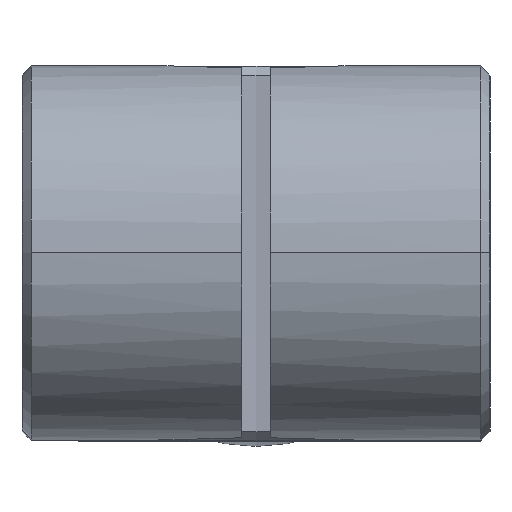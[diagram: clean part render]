
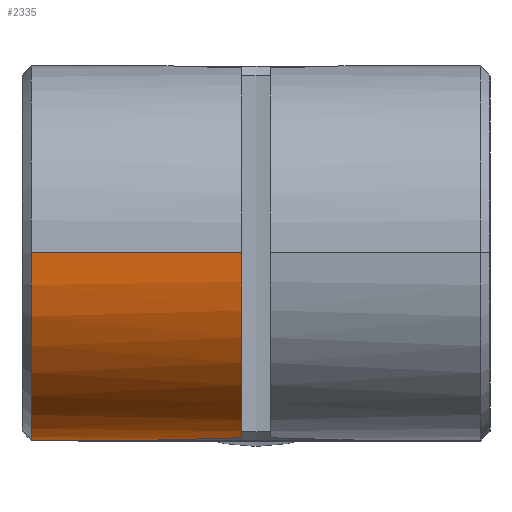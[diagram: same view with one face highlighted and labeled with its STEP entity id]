
A CAD part, top view. The second image highlights one B-rep face of the part: STEP entity #2335.
In plain terms, the highlighted cylindrical face has radius 10 mm (diameter 20 mm), a partial arc.
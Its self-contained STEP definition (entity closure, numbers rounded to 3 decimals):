
#103 = CARTESIAN_POINT ( 'NONE',  ( 0., -10., 0.5 ) ) ;
#131 = CARTESIAN_POINT ( 'NONE',  ( -1.513, -9.885, 11.75 ) ) ;
#145 = VECTOR ( 'NONE', #1704, 1000. ) ;
#150 = VERTEX_POINT ( 'NONE', #131 ) ;
#175 = CARTESIAN_POINT ( 'NONE',  ( 0., 0., 0.5 ) ) ;
#227 = CARTESIAN_POINT ( 'NONE',  ( 0., 0., 11.75 ) ) ;
#239 = EDGE_CURVE ( 'NONE', #1617, #460, #1925, .T. ) ;
#280 = CARTESIAN_POINT ( 'NONE',  ( -0.674, -9.978, 8.417 ) ) ;
#460 = VERTEX_POINT ( 'NONE', #103 ) ;
#483 = DIRECTION ( 'NONE',  ( 0., 0., -1. ) ) ;
#502 = FACE_OUTER_BOUND ( 'NONE', #1262, .T. ) ;
#596 = LINE ( 'NONE', #3121, #145 ) ;
#628 = CARTESIAN_POINT ( 'NONE',  ( -10., 0., 0.5 ) ) ;
#707 = DIRECTION ( 'NONE',  ( 1., 0., 0. ) ) ;
#752 = VECTOR ( 'NONE', #2959, 1000. ) ;
#780 = CARTESIAN_POINT ( 'NONE',  ( -0.973, -9.953, 9.169 ) ) ;
#793 = VERTEX_POINT ( 'NONE', #3399 ) ;
#833 = CARTESIAN_POINT ( 'NONE',  ( -0.109, -10., 7.326 ) ) ;
#840 = EDGE_CURVE ( 'NONE', #793, #848, #596, .T. ) ;
#848 = VERTEX_POINT ( 'NONE', #628 ) ;
#994 = CIRCLE ( 'NONE', #2441, 10. ) ;
#1070 = DIRECTION ( 'NONE',  ( 0., 0., -1. ) ) ;
#1122 = CARTESIAN_POINT ( 'NONE',  ( -1.452, -9.894, 10.941 ) ) ;
#1195 = ORIENTED_EDGE ( 'NONE', *, *, #840, .T. ) ;
#1232 = ORIENTED_EDGE ( 'NONE', *, *, #2256, .T. ) ;
#1262 = EDGE_LOOP ( 'NONE', ( #2157, #1195, #2831, #3537, #1232 ) ) ;
#1288 = CARTESIAN_POINT ( 'NONE',  ( 0., -10., 25. ) ) ;
#1335 = CARTESIAN_POINT ( 'NONE',  ( -0.408, -9.992, 7.864 ) ) ;
#1372 = CARTESIAN_POINT ( 'NONE',  ( -0.755, -9.972, 8.603 ) ) ;
#1382 = CARTESIAN_POINT ( 'NONE',  ( 0., -10., 7.152 ) ) ;
#1607 = CARTESIAN_POINT ( 'NONE',  ( 0., 0., 25. ) ) ;
#1617 = VERTEX_POINT ( 'NONE', #1382 ) ;
#1619 = AXIS2_PLACEMENT_3D ( 'NONE', #227, #1070, #3013 ) ;
#1628 = CARTESIAN_POINT ( 'NONE',  ( -0.904, -9.959, 8.98 ) ) ;
#1704 = DIRECTION ( 'NONE',  ( 0., 0., -1. ) ) ;
#1826 = CARTESIAN_POINT ( 'NONE',  ( 0., -10., 7.152 ) ) ;
#1851 = AXIS2_PLACEMENT_3D ( 'NONE', #1607, #483, #1938 ) ;
#1925 = LINE ( 'NONE', #1288, #752 ) ;
#1938 = DIRECTION ( 'NONE',  ( -1., 0., 0. ) ) ;
#1954 = CYLINDRICAL_SURFACE ( 'NONE', #1851, 10. ) ;
#2157 = ORIENTED_EDGE ( 'NONE', *, *, #2359, .T. ) ;
#2183 = CARTESIAN_POINT ( 'NONE',  ( -1.293, -9.919, 10.141 ) ) ;
#2256 = EDGE_CURVE ( 'NONE', #1617, #150, #2321, .T. ) ;
#2321 = B_SPLINE_CURVE_WITH_KNOTS ( 'NONE', 3,
 ( #1826, #833, #3277, #1335, #2442, #280, #1372, #1628, #780, #2183, #1122, #2996 ),
 .UNSPECIFIED., .F., .F.,
 ( 4, 2, 2, 2, 2, 4 ),
 ( 0., 0.125, 0.25, 0.375, 0.5, 1. ),
 .UNSPECIFIED. ) ;
#2335 = ADVANCED_FACE ( 'NONE', ( #502 ), #1954, .T. ) ;
#2359 = EDGE_CURVE ( 'NONE', #150, #793, #3183, .T. ) ;
#2441 = AXIS2_PLACEMENT_3D ( 'NONE', #175, #3555, #707 ) ;
#2442 = CARTESIAN_POINT ( 'NONE',  ( -0.501, -9.988, 8.048 ) ) ;
#2831 = ORIENTED_EDGE ( 'NONE', *, *, #3030, .T. ) ;
#2959 = DIRECTION ( 'NONE',  ( 0., 0., -1. ) ) ;
#2996 = CARTESIAN_POINT ( 'NONE',  ( -1.513, -9.885, 11.75 ) ) ;
#3013 = DIRECTION ( 'NONE',  ( -1., 0., 0. ) ) ;
#3030 = EDGE_CURVE ( 'NONE', #848, #460, #994, .T. ) ;
#3121 = CARTESIAN_POINT ( 'NONE',  ( -10., 0., 25. ) ) ;
#3183 = CIRCLE ( 'NONE', #1619, 10. ) ;
#3277 = CARTESIAN_POINT ( 'NONE',  ( -0.212, -9.998, 7.504 ) ) ;
#3399 = CARTESIAN_POINT ( 'NONE',  ( -10., 0., 11.75 ) ) ;
#3537 = ORIENTED_EDGE ( 'NONE', *, *, #239, .F. ) ;
#3555 = DIRECTION ( 'NONE',  ( 0., 0., 1. ) ) ;
